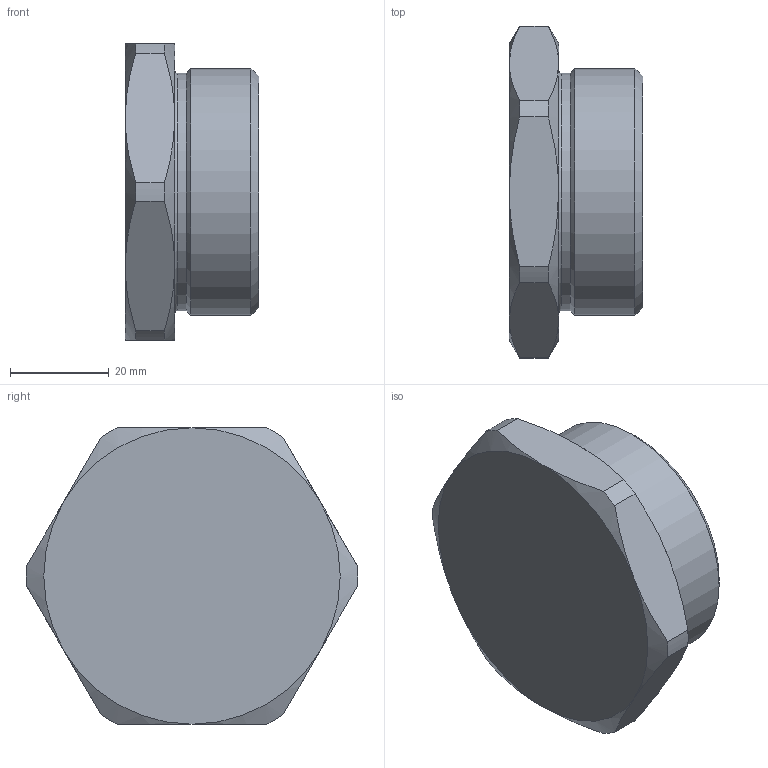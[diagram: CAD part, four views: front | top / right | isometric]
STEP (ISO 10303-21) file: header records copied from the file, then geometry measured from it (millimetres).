
FILE_DESCRIPTION (( 'STEP AP214' ), '1' );
FILE_NAME ('ﾂﾇﾍ5Mﾍ.STEP', '2021-05-19T08:03:19', ( '' ), ( '' ), 'SwSTEP 2.0', 'SolidWorks 2018', '' );
FILE_SCHEMA (( 'AUTOMOTIVE_DESIGN' ));
Length unit declared in the file: millimetre
Products named in the file (1): ﾂﾇﾍ5Mﾍ
Bounding box: 27 x 67.19 x 60 mm (x, y, z)
Volume: 42049.8 mm3; surface area: 12767.5 mm2
Topology: 1 solids, 1 shells, 35 faces, 77 edges, 46 vertices
Faces by surface type: cone 15, plane 10, cylinder 9, torus 1
Full cylindrical faces by diameter (mm): 40 x1, 48.1 x1, 50 x1
Entity records: 1085 total; most frequent: CARTESIAN_POINT 326, DIRECTION 150, ORIENTED_EDGE 138, EDGE_CURVE 69, AXIS2_PLACEMENT_3D 69, VERTEX_POINT 45, EDGE_LOOP 44, FACE_OUTER_BOUND 39
